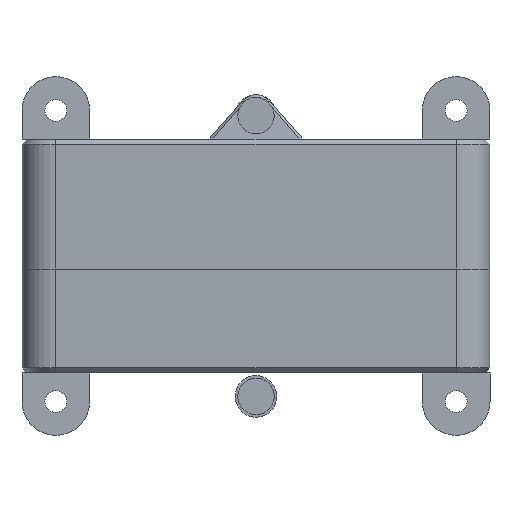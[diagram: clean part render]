
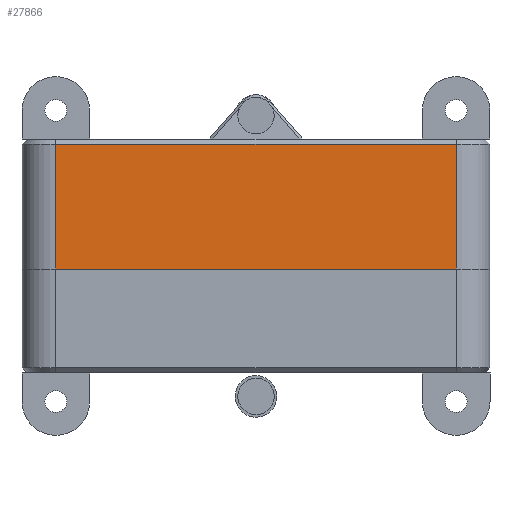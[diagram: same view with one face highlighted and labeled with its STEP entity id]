
A CAD part, front view. The second image highlights one B-rep face of the part: STEP entity #27866.
In plain terms, the highlighted planar face has unit normal (0, -1, 0).
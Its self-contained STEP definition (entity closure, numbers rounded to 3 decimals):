
#1564=PLANE('',#29623);
#2720=FACE_OUTER_BOUND('',#4298,.T.);
#4298=EDGE_LOOP('',(#22222,#22223,#22224,#22225));
#5391=LINE('',#36849,#8342);
#5432=LINE('',#36956,#8383);
#5560=LINE('',#37453,#8511);
#5561=LINE('',#37455,#8512);
#8342=VECTOR('',#30753,10.);
#8383=VECTOR('',#30834,10.);
#8511=VECTOR('',#31054,10.);
#8512=VECTOR('',#31057,10.);
#12111=VERTEX_POINT('',#36846);
#12112=VERTEX_POINT('',#36848);
#12156=VERTEX_POINT('',#36948);
#12158=VERTEX_POINT('',#36954);
#14849=EDGE_CURVE('',#12111,#12112,#5391,.T.);
#14903=EDGE_CURVE('',#12158,#12156,#5432,.T.);
#15070=EDGE_CURVE('',#12112,#12158,#5560,.T.);
#15071=EDGE_CURVE('',#12156,#12111,#5561,.T.);
#22222=ORIENTED_EDGE('',*,*,#14903,.F.);
#22223=ORIENTED_EDGE('',*,*,#15070,.F.);
#22224=ORIENTED_EDGE('',*,*,#14849,.F.);
#22225=ORIENTED_EDGE('',*,*,#15071,.F.);
#27866=ADVANCED_FACE('',(#2720),#1564,.T.);
#29623=AXIS2_PLACEMENT_3D('',#42128,#32936,#32937);
#30753=DIRECTION('',(1.,0.,0.));
#30834=DIRECTION('',(-1.,0.,0.));
#31054=DIRECTION('',(0.,0.,-1.));
#31057=DIRECTION('',(0.,0.,1.));
#32936=DIRECTION('center_axis',(0.,-1.,0.));
#32937=DIRECTION('ref_axis',(1.,0.,0.));
#36846=CARTESIAN_POINT('',(-38.5,0.,25.));
#36848=CARTESIAN_POINT('',(38.5,0.,25.));
#36849=CARTESIAN_POINT('',(-45.,0.,25.));
#36948=CARTESIAN_POINT('',(-38.5,0.,1.));
#36954=CARTESIAN_POINT('',(38.5,0.,1.));
#36956=CARTESIAN_POINT('',(-22.5,0.,1.));
#37453=CARTESIAN_POINT('',(38.5,0.,0.));
#37455=CARTESIAN_POINT('',(-38.5,0.,0.));
#42128=CARTESIAN_POINT('Origin',(-45.,0.,
0.));
